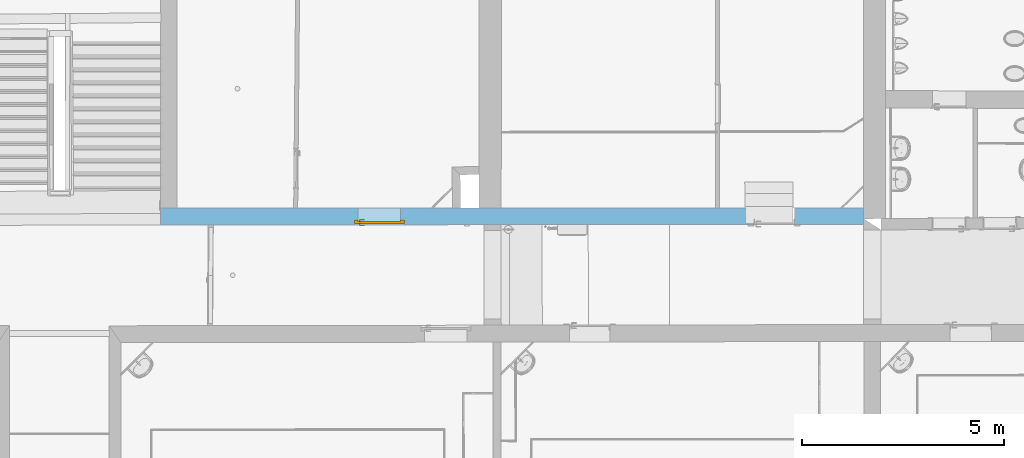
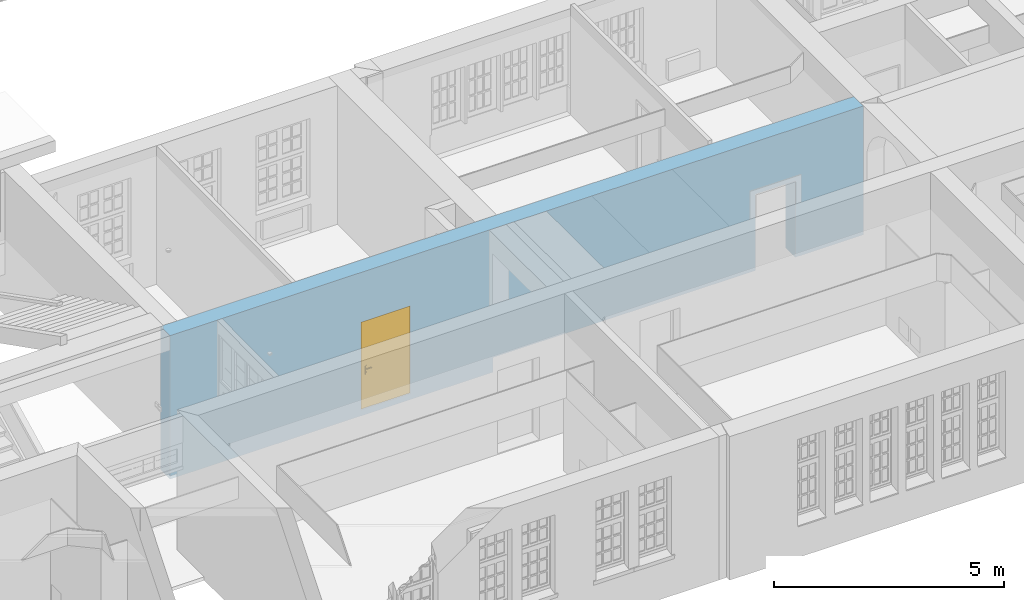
# One storey, part 62 of 158: 1 door, 2 openings, plus 1 element that does not belong to this part.
"""IFC2X3 building model written with IfcOpenShell, lengths in metres."""

from ifc_helpers import new_model, entity, si_unit, converted_unit, derived_unit, money_unit, direction, frame, origin_with_axes, origin_2d_with_axis, place, context, subcontext, project, spatial, polyline, rectangle, outline, extrude, boolean, faceted_brep, source, transform, mapped, material, type_object, element, fill, save


model = new_model("IFC2X3")

# Units and contexts
model_context = context("Model", 3, precision=1e-05, world=origin_with_axes(), true_north=direction((0.0, 1.0)))
body_context = subcontext(model_context, "Body", "Model", "MODEL_VIEW")
ifc_project = project(units=[si_unit("LENGTHUNIT", "METRE"), si_unit("AREAUNIT", "SQUARE_METRE"), si_unit("VOLUMEUNIT", "CUBIC_METRE"), converted_unit("PLANEANGLEUNIT", "DEGREE", entity("IfcPlaneAngleMeasure", 0.0174532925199), si_unit("PLANEANGLEUNIT", "RADIAN"), dimensions=[0, 0, 0, 0, 0, 0, 0]), money_unit("EUR"), converted_unit("TIMEUNIT", "Year", entity("IfcTimeMeasure", 31556926.0), si_unit("TIMEUNIT", "SECOND"), dimensions=[0, 0, 1, 0, 0, 0, 0]), si_unit("MASSUNIT", "GRAM", prefix="KILO"), si_unit("THERMODYNAMICTEMPERATUREUNIT", "DEGREE_CELSIUS"), si_unit("LUMINOUSINTENSITYUNIT", "LUMEN"), si_unit("ENERGYUNIT", "JOULE", prefix="MEGA"), derived_unit("THERMALCONDUCTANCEUNIT", [(si_unit("POWERUNIT", "WATT"), 1), (si_unit("LENGTHUNIT", "METRE"), -1), (si_unit("THERMODYNAMICTEMPERATUREUNIT", "KELVIN"), -1)]), derived_unit("SPECIFICHEATCAPACITYUNIT", [(si_unit("ENERGYUNIT", "JOULE"), 1), (si_unit("MASSUNIT", "GRAM", prefix="KILO"), -1), (si_unit("THERMODYNAMICTEMPERATUREUNIT", "KELVIN"), -1)]), derived_unit("MASSDENSITYUNIT", [(si_unit("MASSUNIT", "GRAM", prefix="KILO"), 1), (si_unit("VOLUMEUNIT", "CUBIC_METRE"), -1)])], contexts=[model_context])

# Site, building, storey
site_placement = place(None, origin_with_axes())
site = spatial("IfcSite", under=ifc_project, at=site_placement, Name="Gelände", CompositionType="ELEMENT")
building_placement = place(site_placement, origin_with_axes())
building = spatial("IfcBuilding", under=site, at=building_placement, Name="Gebäude", CompositionType="ELEMENT")
storey_placement = place(building_placement, origin_with_axes())
storey = spatial("IfcBuildingStorey", under=building, at=storey_placement, Name="ERDGESCHOSS", CompositionType="ELEMENT", Elevation=0.0)

# Wall, openings, door
ifc_material = material(Name="05_ALLGEMEIN - TRAGENDE BAUTEILE")
wall_type = type_object("IfcWallType", Name="05_ALLGEMEIN - TRAGENDE BAUTEILE 415", PredefinedType="ELEMENTEDWALL")
wall_placement = place(storey_placement, frame((-4.46533827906, 19.2762494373, -0.21), z_axis=(0.0, 0.0, 1.0), x_axis=(0.999999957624, 0.000291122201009, 0.0)))
wall = element("IfcWall", 1, at=wall_placement, inside=storey, type_object=wall_type, material=ifc_material, Name="Wand-038", ObjectType="ELEMENTEDWALL", context=body_context, shape_type="CSG", body=[
    boolean("DIFFERENCE", boolean("DIFFERENCE", extrude(outline(polyline([(-0.410000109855, 0.0), (17.5556844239, 0.0), (17.5556844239, 0.414615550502), (-0.410000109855, 0.414615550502), (-0.410000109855, 0.0)])), origin_with_axes(), (0.0, 0.0, 1.0), 3.81), faceted_brep([(-0.409766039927, 0.319751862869, 3.81), (-0.409696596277, 0.414615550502, 3.81), (-0.410000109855, 0.414615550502, 3.81), (-0.410000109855, 0.0, 3.81), (-0.40959077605, 0.285260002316, 3.81), (-0.409696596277, 0.414615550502, 0.0), (-0.409766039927, 0.319751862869, 3.56149033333), (-0.409791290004, 0.285258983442, 3.56149033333), (-0.409791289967, 0.285258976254, 3.42), (-0.410000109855, 0.0, 3.42), (-0.410000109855, 0.0, 0.0), (-0.410000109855, 0.414615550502, 0.0), (-0.409590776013, 0.285259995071, 3.42), (-0.40959077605, 0.285260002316, 3.56149033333)], [[[0, 1, 2, 3, 4]], [[5, 1, 0, 6, 7, 8, 9, 10]], [[1, 5, 11, 2]], [[9, 3, 2, 11, 10]], [[4, 3, 9, 12, 13]], [[0, 4, 13, 6]], [[13, 7, 6]], [[8, 7, 13, 12]], [[8, 12, 9]], [[5, 10, 11]]])), faceted_brep([(17.005684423, 0.414615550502, 3.81), (17.0056598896, 0.0, 3.81), (17.5556844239, 0.0, 3.81), (17.5556844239, 0.414615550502, 3.81), (17.0056598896, 0.0, 0.39), (17.005684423, 0.414615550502, 0.39), (7.70358417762, 0.0, 0.39), (7.70358417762, 0.0, 0.0), (17.5556844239, 0.0, 0.0), (17.5556844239, 0.414615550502, 0.0), (7.70345066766, 0.414615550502, 0.0), (7.70345066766, 0.414615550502, 0.39), (17.0056598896, 0.414615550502, 0.39)], [[[0, 1, 2, 3]], [[4, 1, 0, 5]], [[6, 7, 8, 2, 1, 4]], [[2, 8, 9, 3]], [[5, 0, 3, 9, 10, 11, 12]], [[6, 4, 5, 12, 11]], [[7, 6, 11, 10]], [[7, 10, 9, 8]]])),
])
opening_1_placement = place(wall_placement, frame((14.7914321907, 0.0, 0.166246), z_axis=(0.0, 0.0, 1.0), x_axis=(1.0, 0.0, 0.0)))
element("IfcOpeningElement", 2, at=opening_1_placement, cuts=wall, Name="Tür-022", context=body_context, shape_type="SweptSolid", body=[
    extrude(rectangle(XDim=1.00454069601, YDim=2.250558, at=origin_2d_with_axis()), frame((0.0, 0.414615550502, 1.125279), z_axis=(0.0, 1.0, 0.0), x_axis=(1.0, 0.0, 0.0)), (0.0, 0.0, -1.0), 1.24384665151),
])
opening_2_placement = place(wall_placement, frame((5.00892276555, 0.0, 0.156249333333), z_axis=(0.0, 0.0, 1.0), x_axis=(1.0, 0.0, 0.0)))
opening_2 = element("IfcOpeningElement", 3, at=opening_2_placement, cuts=wall, Name="Tür-022", context=body_context, shape_type="SweptSolid", body=[
    extrude(rectangle(XDim=1.05907517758, YDim=2.24387033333, at=origin_2d_with_axis()), frame((0.0, 0.12, 1.12193516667), z_axis=(0.0, 1.0, 0.0), x_axis=(1.0, 0.0, 0.0)), (0.0, 0.0, 1.0), 0.709231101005),
    extrude(rectangle(XDim=1.23907517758, YDim=2.33387033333, at=origin_2d_with_axis()), frame((0.0, 0.03, 1.16693516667), z_axis=(0.0, -1.0, 0.0), x_axis=(1.0, 0.0, 0.0)), (0.0, 0.0, -1.0), 0.09),
    extrude(rectangle(XDim=1.23907517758, YDim=2.33387033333, at=origin_2d_with_axis()), frame((0.0, 0.03, 1.16693516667), z_axis=(0.0, -1.0, 0.0), x_axis=(1.0, 0.0, 0.0)), (0.0, 0.0, 1.0), 0.444615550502),
])
door_style = type_object("IfcDoorStyle", Name="Blockrahmentür 1-Fl 25", ConstructionType="NOTDEFINED", OperationType="SINGLE_SWING_LEFT", ParameterTakesPrecedence=False, Sizeable=False)
shared_shape = source(origin_with_axes(), body_context, "Body", "Brep", [
    faceted_brep([(-0.619537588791, -0.09, 0.0), (-0.619537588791, -0.09, 2.33387033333), (-0.619537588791, -0.05, 2.33387033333), (-0.619537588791, -0.05, 0.0), (-0.529537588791, -0.09, 0.0), (-0.529537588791, -0.09, 2.24387033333), (-0.1121, -0.09, 2.24387033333), (-0.0001, -0.09, 2.24387033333), (0.529537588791, -0.09, 2.24387033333), (0.529537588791, -0.09, 0.0), (0.619537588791, -0.09, 0.0), (0.619537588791, -0.09, 2.33387033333), (0.619537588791, -0.05, 2.33387033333), (0.619537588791, -0.05, 0.0), (0.529537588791, -0.05, 0.0), (0.529537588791, -0.05, 2.24387033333), (-0.0001, -0.05, 2.24387033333), (-0.1121, -0.05, 2.24387033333), (-0.529537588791, -0.05, 2.24387033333), (-0.529537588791, -0.05, 0.0)], [[[0, 1, 2, 3]], [[0, 4, 5, 6, 7, 8, 9, 10, 11, 1]], [[1, 11, 12, 2]], [[3, 2, 12, 13, 14, 15, 16, 17, 18, 19]], [[4, 0, 3, 19]], [[5, 4, 19, 18]], [[6, 5, 18, 17]], [[7, 6, 17, 16]], [[8, 7, 16, 15]], [[9, 8, 15, 14]], [[10, 9, 14, 13]], [[11, 10, 13, 12]]]),
    faceted_brep([(-0.619537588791, -0.05, 0.0), (-0.619537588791, -0.05, 2.33387033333), (-0.619537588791, 0.0, 2.33387033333), (-0.619537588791, 0.0, 0.0), (-0.541537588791, -0.05, 0.0), (-0.541537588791, -0.05, 2.25587033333), (-0.1001, -0.05, 2.25587033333), (-0.0121, -0.05, 2.25587033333), (0.541537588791, -0.05, 2.25587033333), (0.541537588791, -0.05, 0.0), (0.619537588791, -0.05, 0.0), (0.619537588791, -0.05, 2.33387033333), (0.619537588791, 0.0, 2.33387033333), (0.619537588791, 0.0, 0.0), (0.541537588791, 0.0, 0.0), (0.541537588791, 0.0, 2.25587033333), (-0.0121, 0.0, 2.25587033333), (-0.1001, 0.0, 2.25587033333), (-0.541537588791, 0.0, 2.25587033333), (-0.541537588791, 0.0, 0.0)], [[[0, 1, 2, 3]], [[0, 4, 5, 6, 7, 8, 9, 10, 11, 1]], [[1, 11, 12, 2]], [[3, 2, 12, 13, 14, 15, 16, 17, 18, 19]], [[4, 0, 3, 19]], [[5, 4, 19, 18]], [[6, 5, 18, 17]], [[7, 6, 17, 16]], [[8, 7, 16, 15]], [[9, 8, 15, 14]], [[10, 9, 14, 13]], [[11, 10, 13, 12]]]),
    faceted_brep([(-0.541537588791, -0.002, 0.0), (-0.541537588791, -0.002, 2.25587033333), (0.541537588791, -0.002, 2.25587033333), (0.541537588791, -0.002, 0.0), (-0.541537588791, -0.05, 0.0), (-0.541537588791, -0.05, 2.25587033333), (0.541537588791, -0.05, 2.25587033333), (0.541537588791, -0.05, 0.0)], [[[0, 1, 2, 3]], [[0, 4, 5, 1]], [[1, 5, 6, 2]], [[2, 6, 7, 3]], [[3, 7, 4, 0]], [[7, 6, 5, 4]]]),
    faceted_brep([(0.486239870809, -0.09, 1.05647213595), (0.486239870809, -0.07, 1.05647213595), (0.481537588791, -0.07, 1.058), (0.481537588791, -0.09, 1.058), (0.489146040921, -0.09, 1.05247213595), (0.489146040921, -0.07, 1.05247213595), (0.487415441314, -0.068, 1.05809016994), (0.481537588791, -0.068, 1.06), (0.476835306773, -0.07, 1.05647213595), (0.476835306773, -0.09, 1.05647213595), (0.473929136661, -0.09, 1.05247213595), (0.473929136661, -0.09, 1.04752786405), (0.476835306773, -0.09, 1.04352786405), (0.481537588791, -0.09, 1.042), (0.486239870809, -0.09, 1.04352786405), (0.489146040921, -0.09, 1.04752786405), (0.489146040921, -0.07, 1.04752786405), (0.491048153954, -0.068, 1.05309016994), (0.487415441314, -0.06, 1.05809016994), (0.481537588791, -0.06, 1.06), (0.475659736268, -0.068, 1.05809016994), (0.473929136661, -0.07, 1.05247213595), (0.473929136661, -0.07, 1.04752786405), (0.476835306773, -0.07, 1.04352786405), (0.481537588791, -0.07, 1.042), (0.486239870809, -0.07, 1.04352786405), (0.491048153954, -0.068, 1.04690983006), (0.491048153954, -0.06, 1.05309016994), (0.491048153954, -0.06, 1.04690983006), (0.487415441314, -0.06, 1.04190983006), (0.481537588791, -0.06, 1.04), (0.475659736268, -0.06, 1.04190983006), (0.472027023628, -0.06, 1.04690983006), (0.472027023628, -0.06, 1.05309016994), (0.475659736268, -0.06, 1.05809016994), (0.472027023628, -0.068, 1.05309016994), (0.472027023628, -0.068, 1.04690983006), (0.475659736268, -0.068, 1.04190983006), (0.481537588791, -0.068, 1.04), (0.487415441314, -0.068, 1.04190983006)], [[[0, 1, 2, 3]], [[4, 5, 1, 0]], [[1, 6, 7, 2]], [[3, 2, 8, 9]], [[3, 9, 10, 11, 12, 13, 14, 15, 4, 0]], [[15, 16, 5, 4]], [[5, 17, 6, 1]], [[6, 18, 19, 7]], [[2, 7, 20, 8]], [[9, 8, 21, 10]], [[10, 21, 22, 11]], [[11, 22, 23, 12]], [[12, 23, 24, 13]], [[13, 24, 25, 14]], [[14, 25, 16, 15]], [[16, 26, 17, 5]], [[17, 27, 18, 6]], [[19, 18, 27, 28, 29, 30, 31, 32, 33, 34]], [[7, 19, 34, 20]], [[8, 20, 35, 21]], [[21, 35, 36, 22]], [[22, 36, 37, 23]], [[23, 37, 38, 24]], [[24, 38, 39, 25]], [[25, 39, 26, 16]], [[26, 28, 27, 17]], [[39, 29, 28, 26]], [[38, 30, 29, 39]], [[37, 31, 30, 38]], [[36, 32, 31, 37]], [[35, 33, 32, 36]], [[20, 34, 33, 35]]]),
    faceted_brep([(0.469349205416, -0.06, 1.11759695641), (0.464737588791, -0.06, 1.11), (0.459037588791, -0.06, 1.11), (0.459037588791, -0.06, 0.89), (0.464737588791, -0.06, 0.89), (0.469349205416, -0.06, 0.882403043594), (0.477094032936, -0.06, 0.878044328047), (0.485981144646, -0.06, 0.878044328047), (0.493725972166, -0.06, 0.882403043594), (0.498337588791, -0.06, 0.89), (0.504037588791, -0.06, 0.89), (0.504037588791, -0.06, 1.11), (0.498337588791, -0.06, 1.11), (0.493725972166, -0.06, 1.11759695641), (0.485981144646, -0.06, 1.12195567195), (0.477094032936, -0.06, 1.12195567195), (0.481537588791, -0.06, 0.967425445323), (0.486912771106, -0.06, 0.965143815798), (0.489005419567, -0.06, 0.959692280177), (0.486537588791, -0.06, 0.9544), (0.486537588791, -0.06, 0.9375), (0.485073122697, -0.06, 0.933964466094), (0.481537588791, -0.06, 0.9325), (0.478002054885, -0.06, 0.933964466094), (0.476537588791, -0.06, 0.9375), (0.476537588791, -0.06, 0.9544), (0.474069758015, -0.06, 0.959692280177), (0.476162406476, -0.06, 0.965143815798), (0.469349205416, -0.05, 1.11759695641), (0.464737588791, -0.05, 1.11), (0.459037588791, -0.05, 1.11), (0.459037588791, -0.05, 0.89), (0.464737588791, -0.05, 0.89), (0.469349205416, -0.05, 0.882403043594), (0.477094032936, -0.05, 0.878044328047), (0.485981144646, -0.05, 0.878044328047), (0.493725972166, -0.05, 0.882403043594), (0.498337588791, -0.05, 0.89), (0.504037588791, -0.05, 0.89), (0.504037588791, -0.05, 1.11), (0.498337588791, -0.05, 1.11), (0.493725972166, -0.05, 1.11759695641), (0.485981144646, -0.05, 1.12195567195), (0.477094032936, -0.05, 1.12195567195), (0.481537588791, -0.05, 0.967425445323), (0.486912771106, -0.05, 0.965143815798), (0.489005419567, -0.05, 0.959692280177), (0.486537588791, -0.05, 0.9544), (0.486537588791, -0.05, 0.9375), (0.485073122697, -0.05, 0.933964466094), (0.481537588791, -0.05, 0.9325), (0.478002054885, -0.05, 0.933964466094), (0.476537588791, -0.05, 0.9375), (0.476537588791, -0.05, 0.9544), (0.474069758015, -0.05, 0.959692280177), (0.476162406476, -0.05, 0.965143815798)], [[[0, 1, 2, 3, 4, 5, 6, 7, 8, 9, 10, 11, 12, 13, 14, 15], [16, 17, 18, 19, 20, 21, 22, 23, 24, 25, 26, 27]], [[0, 28, 29, 1]], [[1, 29, 30, 2]], [[2, 30, 31, 3]], [[3, 31, 32, 4]], [[4, 32, 33, 5]], [[5, 33, 34, 6]], [[6, 34, 35, 7]], [[7, 35, 36, 8]], [[8, 36, 37, 9]], [[9, 37, 38, 10]], [[10, 38, 39, 11]], [[11, 39, 40, 12]], [[12, 40, 41, 13]], [[13, 41, 42, 14]], [[14, 42, 43, 15]], [[15, 43, 28, 0]], [[16, 44, 45, 17]], [[17, 45, 46, 18]], [[18, 46, 47, 19]], [[47, 48, 20, 19]], [[21, 20, 48, 49]], [[22, 21, 49, 50]], [[23, 22, 50, 51]], [[24, 23, 51, 52]], [[25, 24, 52, 53]], [[25, 53, 54, 26]], [[26, 54, 55, 27]], [[27, 55, 44, 16]], [[32, 31, 30, 29, 28, 43, 42, 41, 40, 39, 38, 37, 36, 35, 34, 33], [46, 45, 44, 55, 54, 53, 52, 51, 50, 49, 48, 47]]]),
    faceted_brep([(0.367284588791, -0.09, 1.057158), (0.367283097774, -0.09, 1.05719388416), (0.367283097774, -0.105, 1.05719388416), (0.367284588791, -0.105, 1.057158), (0.394312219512, -0.09, 1.06432652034), (0.422140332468, -0.09, 1.06706086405), (0.450046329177, -0.09, 1.06529002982), (0.477305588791, -0.09, 1.05906), (0.483708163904, -0.09, 1.05976125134), (0.489210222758, -0.09, 1.05641280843), (0.491529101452, -0.09, 1.05040385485), (0.489702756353, -0.09, 1.04422735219), (0.484488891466, -0.09, 1.04044577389), (0.478050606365, -0.09, 1.04062800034), (0.473058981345, -0.09, 1.04469843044), (0.473079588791, -0.09, 1.044666), (0.447790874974, -0.09, 1.05019878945), (0.421948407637, -0.09, 1.05171460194), (0.396186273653, -0.09, 1.04917624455), (0.371136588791, -0.09, 1.042646), (0.365593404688, -0.09, 1.04356849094), (0.362231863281, -0.09, 1.04807159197), (0.362923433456, -0.09, 1.05364829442), (0.362923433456, -0.105, 1.05364829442), (0.362231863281, -0.105, 1.04807159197), (0.365593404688, -0.105, 1.04356849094), (0.371136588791, -0.105, 1.042646), (0.396186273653, -0.105, 1.04917624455), (0.421948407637, -0.105, 1.05171460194), (0.447790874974, -0.105, 1.05019878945), (0.473079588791, -0.105, 1.044666), (0.473058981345, -0.105, 1.04469843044), (0.478050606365, -0.105, 1.04062800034), (0.484488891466, -0.105, 1.04044577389), (0.489702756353, -0.105, 1.04422735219), (0.491529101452, -0.105, 1.05040385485), (0.489210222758, -0.105, 1.05641280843), (0.483708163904, -0.105, 1.05976125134), (0.477305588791, -0.105, 1.05906), (0.450046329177, -0.105, 1.06529002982), (0.422140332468, -0.105, 1.06706086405), (0.394312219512, -0.105, 1.06432652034)], [[[0, 1, 2, 3]], [[0, 4, 5, 6, 7, 8, 9, 10, 11, 12, 13, 14, 15, 16, 17, 18, 19, 20, 21, 22, 1]], [[1, 22, 23, 2]], [[3, 2, 23, 24, 25, 26, 27, 28, 29, 30, 31, 32, 33, 34, 35, 36, 37, 38, 39, 40, 41]], [[4, 0, 3, 41]], [[5, 4, 41, 40]], [[6, 5, 40, 39]], [[7, 6, 39, 38]], [[8, 7, 38, 37]], [[9, 8, 37, 36]], [[10, 9, 36, 35]], [[11, 10, 35, 34]], [[12, 11, 34, 33]], [[13, 12, 33, 32]], [[14, 13, 32, 31]], [[15, 14, 31, 30]], [[16, 15, 30, 29]], [[17, 16, 29, 28]], [[18, 17, 28, 27]], [[19, 18, 27, 26]], [[20, 19, 26, 25]], [[21, 20, 25, 24]], [[22, 21, 24, 23]]]),
    faceted_brep([(0.486239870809, 0.038, 1.05647213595), (0.481537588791, 0.038, 1.058), (0.481537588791, 0.018, 1.058), (0.486239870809, 0.018, 1.05647213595), (0.489146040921, 0.038, 1.05247213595), (0.489146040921, 0.038, 1.04752786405), (0.486239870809, 0.038, 1.04352786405), (0.481537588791, 0.038, 1.042), (0.476835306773, 0.038, 1.04352786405), (0.473929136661, 0.038, 1.04752786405), (0.473929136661, 0.038, 1.05247213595), (0.476835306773, 0.038, 1.05647213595), (0.476835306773, 0.018, 1.05647213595), (0.481537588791, 0.016, 1.06), (0.487415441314, 0.016, 1.05809016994), (0.489146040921, 0.018, 1.05247213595), (0.489146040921, 0.018, 1.04752786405), (0.486239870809, 0.018, 1.04352786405), (0.481537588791, 0.018, 1.042), (0.476835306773, 0.018, 1.04352786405), (0.473929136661, 0.018, 1.04752786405), (0.473929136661, 0.018, 1.05247213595), (0.475659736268, 0.016, 1.05809016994), (0.481537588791, 0.008, 1.06), (0.487415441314, 0.008, 1.05809016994), (0.491048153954, 0.016, 1.05309016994), (0.491048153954, 0.016, 1.04690983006), (0.487415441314, 0.016, 1.04190983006), (0.481537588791, 0.016, 1.04), (0.475659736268, 0.016, 1.04190983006), (0.472027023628, 0.016, 1.04690983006), (0.472027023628, 0.016, 1.05309016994), (0.475659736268, 0.008, 1.05809016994), (0.472027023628, 0.008, 1.05309016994), (0.472027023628, 0.008, 1.04690983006), (0.475659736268, 0.008, 1.04190983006), (0.481537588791, 0.008, 1.04), (0.487415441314, 0.008, 1.04190983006), (0.491048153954, 0.008, 1.04690983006), (0.491048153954, 0.008, 1.05309016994)], [[[0, 1, 2, 3]], [[1, 0, 4, 5, 6, 7, 8, 9, 10, 11]], [[1, 11, 12, 2]], [[3, 2, 13, 14]], [[4, 0, 3, 15]], [[5, 4, 15, 16]], [[6, 5, 16, 17]], [[7, 6, 17, 18]], [[8, 7, 18, 19]], [[9, 8, 19, 20]], [[10, 9, 20, 21]], [[11, 10, 21, 12]], [[2, 12, 22, 13]], [[14, 13, 23, 24]], [[15, 3, 14, 25]], [[16, 15, 25, 26]], [[17, 16, 26, 27]], [[18, 17, 27, 28]], [[19, 18, 28, 29]], [[20, 19, 29, 30]], [[21, 20, 30, 31]], [[12, 21, 31, 22]], [[13, 22, 32, 23]], [[23, 32, 33, 34, 35, 36, 37, 38, 39, 24]], [[25, 14, 24, 39]], [[26, 25, 39, 38]], [[27, 26, 38, 37]], [[28, 27, 37, 36]], [[29, 28, 36, 35]], [[30, 29, 35, 34]], [[31, 30, 34, 33]], [[22, 31, 33, 32]]]),
    faceted_brep([(0.469349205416, -0.002, 1.11759695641), (0.464737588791, -0.002, 1.11), (0.459037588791, -0.002, 1.11), (0.459037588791, -0.002, 0.89), (0.464737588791, -0.002, 0.89), (0.469349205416, -0.002, 0.882403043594), (0.477094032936, -0.002, 0.878044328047), (0.485981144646, -0.002, 0.878044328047), (0.493725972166, -0.002, 0.882403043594), (0.498337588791, -0.002, 0.89), (0.504037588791, -0.002, 0.89), (0.504037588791, -0.002, 1.11), (0.498337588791, -0.002, 1.11), (0.493725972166, -0.002, 1.11759695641), (0.485981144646, -0.002, 1.12195567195), (0.477094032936, -0.002, 1.12195567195), (0.481537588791, -0.002, 0.967425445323), (0.486912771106, -0.002, 0.965143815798), (0.489005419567, -0.002, 0.959692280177), (0.486537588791, -0.002, 0.9544), (0.486537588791, -0.002, 0.9375), (0.485073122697, -0.002, 0.933964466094), (0.481537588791, -0.002, 0.9325), (0.478002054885, -0.002, 0.933964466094), (0.476537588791, -0.002, 0.9375), (0.476537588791, -0.002, 0.9544), (0.474069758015, -0.002, 0.959692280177), (0.476162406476, -0.002, 0.965143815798), (0.469349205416, 0.008, 1.11759695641), (0.464737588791, 0.008, 1.11), (0.459037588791, 0.008, 1.11), (0.459037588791, 0.008, 0.89), (0.464737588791, 0.008, 0.89), (0.469349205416, 0.008, 0.882403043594), (0.477094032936, 0.008, 0.878044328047), (0.485981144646, 0.008, 0.878044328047), (0.493725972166, 0.008, 0.882403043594), (0.498337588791, 0.008, 0.89), (0.504037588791, 0.008, 0.89), (0.504037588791, 0.008, 1.11), (0.498337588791, 0.008, 1.11), (0.493725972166, 0.008, 1.11759695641), (0.485981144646, 0.008, 1.12195567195), (0.477094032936, 0.008, 1.12195567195), (0.481537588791, 0.008, 0.967425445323), (0.486912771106, 0.008, 0.965143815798), (0.489005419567, 0.008, 0.959692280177), (0.486537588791, 0.008, 0.9544), (0.486537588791, 0.008, 0.9375), (0.485073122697, 0.008, 0.933964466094), (0.481537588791, 0.008, 0.9325), (0.478002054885, 0.008, 0.933964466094), (0.476537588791, 0.008, 0.9375), (0.476537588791, 0.008, 0.9544), (0.474069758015, 0.008, 0.959692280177), (0.476162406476, 0.008, 0.965143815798)], [[[0, 1, 2, 3, 4, 5, 6, 7, 8, 9, 10, 11, 12, 13, 14, 15], [16, 17, 18, 19, 20, 21, 22, 23, 24, 25, 26, 27]], [[28, 29, 1, 0]], [[29, 30, 2, 1]], [[30, 31, 3, 2]], [[31, 32, 4, 3]], [[32, 33, 5, 4]], [[33, 34, 6, 5]], [[34, 35, 7, 6]], [[35, 36, 8, 7]], [[36, 37, 9, 8]], [[37, 38, 10, 9]], [[38, 39, 11, 10]], [[39, 40, 12, 11]], [[40, 41, 13, 12]], [[41, 42, 14, 13]], [[42, 43, 15, 14]], [[43, 28, 0, 15]], [[16, 44, 45, 17]], [[17, 45, 46, 18]], [[18, 46, 47, 19]], [[47, 48, 20, 19]], [[21, 20, 48, 49]], [[22, 21, 49, 50]], [[23, 22, 50, 51]], [[24, 23, 51, 52]], [[25, 24, 52, 53]], [[25, 53, 54, 26]], [[26, 54, 55, 27]], [[27, 55, 44, 16]], [[32, 31, 30, 29, 28, 43, 42, 41, 40, 39, 38, 37, 36, 35, 34, 33], [46, 45, 44, 55, 54, 53, 52, 51, 50, 49, 48, 47]]]),
    faceted_brep([(0.367284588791, 0.038, 1.057158), (0.367284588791, 0.053, 1.057158), (0.367283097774, 0.053, 1.05719388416), (0.367283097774, 0.038, 1.05719388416), (0.394312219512, 0.038, 1.06432652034), (0.394312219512, 0.053, 1.06432652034), (0.422140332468, 0.053, 1.06706086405), (0.450046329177, 0.053, 1.06529002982), (0.477305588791, 0.053, 1.05906), (0.483708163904, 0.053, 1.05976125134), (0.489210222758, 0.053, 1.05641280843), (0.491529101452, 0.053, 1.05040385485), (0.489702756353, 0.053, 1.04422735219), (0.484488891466, 0.053, 1.04044577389), (0.478050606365, 0.053, 1.04062800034), (0.473058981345, 0.053, 1.04469843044), (0.473079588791, 0.053, 1.044666), (0.447790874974, 0.053, 1.05019878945), (0.421948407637, 0.053, 1.05171460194), (0.396186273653, 0.053, 1.04917624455), (0.371136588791, 0.053, 1.042646), (0.365593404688, 0.053, 1.04356849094), (0.362231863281, 0.053, 1.04807159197), (0.362923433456, 0.053, 1.05364829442), (0.362923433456, 0.038, 1.05364829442), (0.362231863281, 0.038, 1.04807159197), (0.365593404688, 0.038, 1.04356849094), (0.371136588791, 0.038, 1.042646), (0.396186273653, 0.038, 1.04917624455), (0.421948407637, 0.038, 1.05171460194), (0.447790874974, 0.038, 1.05019878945), (0.473079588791, 0.038, 1.044666), (0.473058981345, 0.038, 1.04469843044), (0.478050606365, 0.038, 1.04062800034), (0.484488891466, 0.038, 1.04044577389), (0.489702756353, 0.038, 1.04422735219), (0.491529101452, 0.038, 1.05040385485), (0.489210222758, 0.038, 1.05641280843), (0.483708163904, 0.038, 1.05976125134), (0.477305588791, 0.038, 1.05906), (0.450046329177, 0.038, 1.06529002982), (0.422140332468, 0.038, 1.06706086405)], [[[0, 1, 2, 3]], [[4, 5, 1, 0]], [[1, 5, 6, 7, 8, 9, 10, 11, 12, 13, 14, 15, 16, 17, 18, 19, 20, 21, 22, 23, 2]], [[3, 2, 23, 24]], [[0, 3, 24, 25, 26, 27, 28, 29, 30, 31, 32, 33, 34, 35, 36, 37, 38, 39, 40, 41, 4]], [[41, 6, 5, 4]], [[40, 7, 6, 41]], [[39, 8, 7, 40]], [[38, 9, 8, 39]], [[37, 10, 9, 38]], [[36, 11, 10, 37]], [[35, 12, 11, 36]], [[34, 13, 12, 35]], [[33, 14, 13, 34]], [[32, 15, 14, 33]], [[31, 16, 15, 32]], [[30, 17, 16, 31]], [[29, 18, 17, 30]], [[28, 19, 18, 29]], [[27, 20, 19, 28]], [[26, 21, 20, 27]], [[25, 22, 21, 26]], [[24, 23, 22, 25]]]),
])
door_placement = place(opening_2_placement, frame((0.529537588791, 0.0, 0.0), z_axis=(0.0, 0.0, 1.0), x_axis=(-1.0, 0.0, 0.0)))
door = element("IfcDoor", 4, at=door_placement, inside=storey, type_object=door_style, Name="Tür-022", ObjectType="NOTDEFINED", OverallHeight=2.33387, OverallWidth=1.23908, context=body_context, shape_type="MappedRepresentation", body=[
    mapped(shared_shape, transform((0.529537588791, -0.03, 0.0))),
])
fill(opening_2, door)

save(model, "model.ifc")
